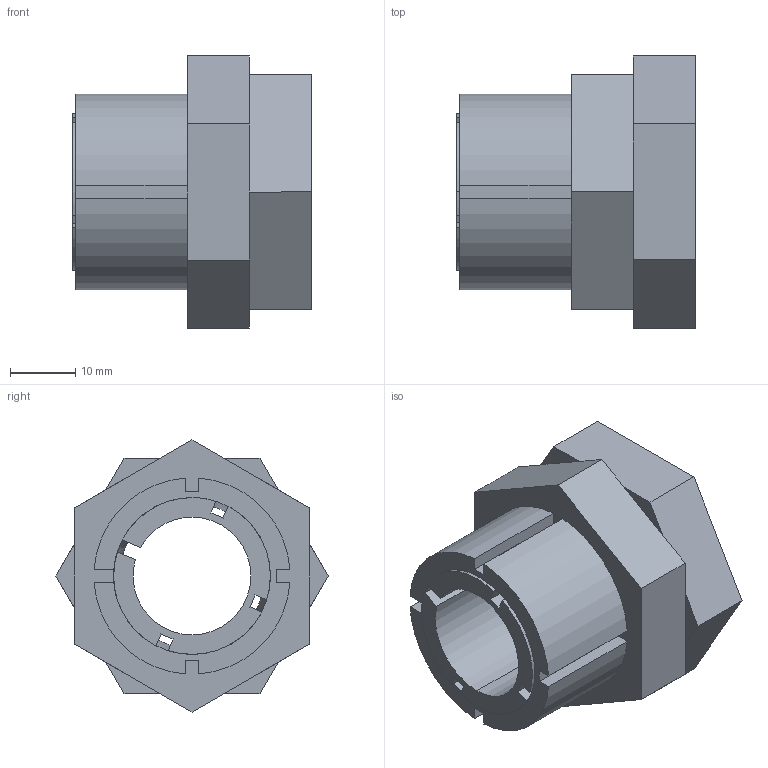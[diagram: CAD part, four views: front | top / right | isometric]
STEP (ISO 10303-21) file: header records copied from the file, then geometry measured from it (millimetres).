
FILE_DESCRIPTION (( 'STEP AP203' ), '1' );
FILE_NAME ('KBS 59 - 18 x 30.STEP', '2015-07-07T21:02:50', ( '' ), ( '' ), 'SwSTEP 2.0', 'SolidWorks 2010', '' );
FILE_SCHEMA (( 'CONFIG_CONTROL_DESIGN' ));
Length unit declared in the file: millimetre
Products named in the file (1): KBS 59 - 18 x 30
Bounding box: 36.5 x 41.57 x 41.57 mm (x, y, z)
Volume: 23196.5 mm3; surface area: 14469.5 mm2
Topology: 3 solids, 3 shells, 78 faces, 204 edges, 132 vertices
Faces by surface type: plane 56, cylinder 14, cone 8
Entity records: 2469 total; most frequent: CARTESIAN_POINT 451, ORIENTED_EDGE 408, DIRECTION 396, EDGE_CURVE 204, LINE 150, VECTOR 150, VERTEX_POINT 132, AXIS2_PLACEMENT_3D 123
